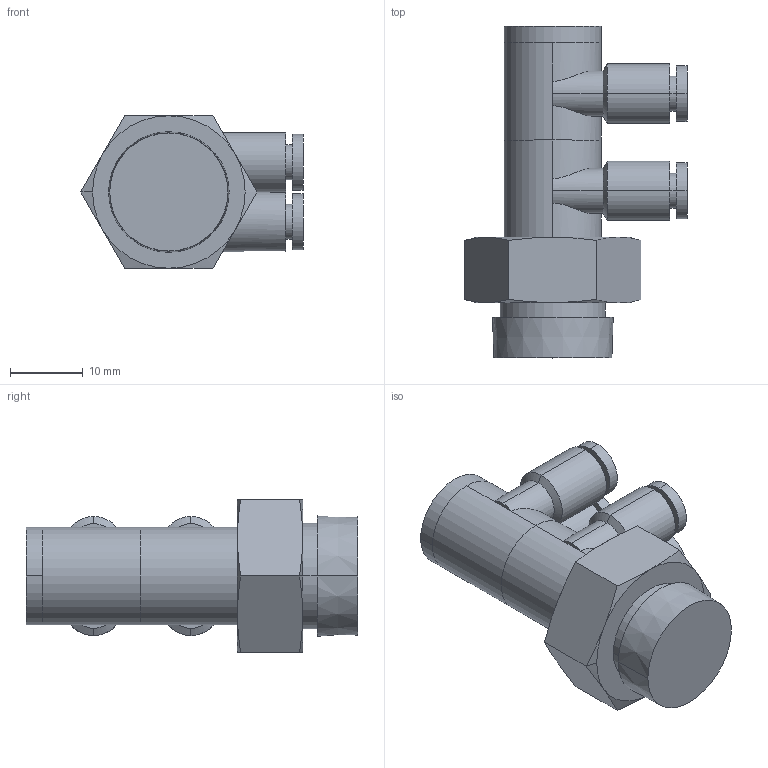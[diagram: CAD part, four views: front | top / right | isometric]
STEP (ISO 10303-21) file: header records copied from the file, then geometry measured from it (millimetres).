
FILE_DESCRIPTION (( 'STEP AP203' ), '1' );
FILE_NAME ('FZD04-03.STEP', '2020-05-11T14:45:37', ( '' ), ( '' ), 'SwSTEP 2.0', 'SolidWorks 2019', '' );
FILE_SCHEMA (( 'CONFIG_CONTROL_DESIGN' ));
Length unit declared in the file: millimetre
Products named in the file (1): FZD04-03
Bounding box: 30.62 x 45.7 x 21 mm (x, y, z)
Volume: 10895.4 mm3; surface area: 7521.6 mm2
Topology: 3 solids, 3 shells, 118 faces, 274 edges, 172 vertices
Faces by surface type: cylinder 52, plane 42, cone 24
Entity records: 4419 total; most frequent: CARTESIAN_POINT 1613, DIRECTION 592, ORIENTED_EDGE 548, EDGE_CURVE 274, AXIS2_PLACEMENT_3D 247, VERTEX_POINT 172, EDGE_LOOP 140, CIRCLE 128
